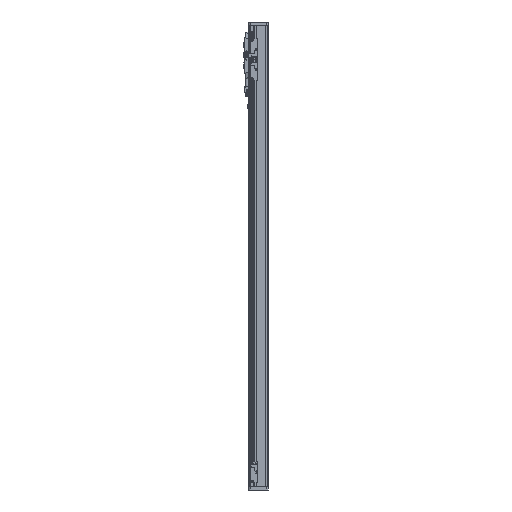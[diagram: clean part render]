
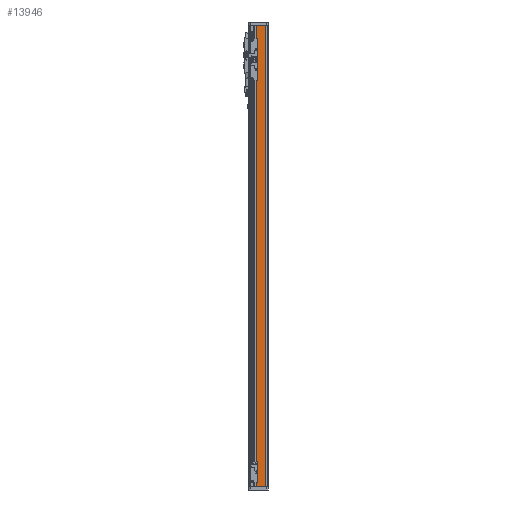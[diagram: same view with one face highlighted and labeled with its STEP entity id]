
A CAD part, left-side view. The second image highlights one B-rep face of the part: STEP entity #13946.
In plain terms, the highlighted planar face has unit normal (-1, 0, 0).
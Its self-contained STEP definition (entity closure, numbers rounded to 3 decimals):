
#152 = PLANE('',#153);
#153 = AXIS2_PLACEMENT_3D('',#154,#155,#156);
#154 = CARTESIAN_POINT('',(0.,0.,575.));
#155 = DIRECTION('',(-0.,0.,1.));
#156 = DIRECTION('',(1.,0.,0.));
#817 = PLANE('',#818);
#818 = AXIS2_PLACEMENT_3D('',#819,#820,#821);
#819 = CARTESIAN_POINT('',(0.,0.,-575.));
#820 = DIRECTION('',(-0.,0.,1.));
#821 = DIRECTION('',(1.,0.,0.));
#7469 = PLANE('',#7470);
#7470 = AXIS2_PLACEMENT_3D('',#7471,#7472,#7473);
#7471 = CARTESIAN_POINT('',(-27.5,-17.,570.));
#7472 = DIRECTION('',(-0.707,0.707,0.));
#7473 = DIRECTION('',(0.,0.,1.));
#7871 = VERTEX_POINT('',#7872);
#7872 = CARTESIAN_POINT('',(-27.1,4.6,575.));
#7886 = PLANE('',#7887);
#7887 = AXIS2_PLACEMENT_3D('',#7888,#7889,#7890);
#7888 = CARTESIAN_POINT('',(-27.1,4.6,570.));
#7889 = DIRECTION('',(-0.707,-0.707,0.));
#7890 = DIRECTION('',(0.,0.,1.));
#7898 = EDGE_CURVE('',#7871,#7899,#7901,.T.);
#7899 = VERTEX_POINT('',#7900);
#7900 = CARTESIAN_POINT('',(-27.1,-16.6,575.));
#7901 = SURFACE_CURVE('',#7902,(#7906,#7913),.PCURVE_S1.);
#7902 = LINE('',#7903,#7904);
#7903 = CARTESIAN_POINT('',(-27.1,8.,575.));
#7904 = VECTOR('',#7905,1.);
#7905 = DIRECTION('',(0.,-1.,0.));
#7906 = PCURVE('',#152,#7907);
#7907 = DEFINITIONAL_REPRESENTATION('',(#7908),#7912);
#7908 = LINE('',#7909,#7910);
#7909 = CARTESIAN_POINT('',(-27.1,8.));
#7910 = VECTOR('',#7911,1.);
#7911 = DIRECTION('',(0.,-1.));
#7912 = ( GEOMETRIC_REPRESENTATION_CONTEXT(2) 
PARAMETRIC_REPRESENTATION_CONTEXT() REPRESENTATION_CONTEXT('2D SPACE',''
  ) );
#7913 = PCURVE('',#7914,#7919);
#7914 = PLANE('',#7915);
#7915 = AXIS2_PLACEMENT_3D('',#7916,#7917,#7918);
#7916 = CARTESIAN_POINT('',(-27.1,8.,570.));
#7917 = DIRECTION('',(1.,0.,0.));
#7918 = DIRECTION('',(0.,1.,0.));
#7919 = DEFINITIONAL_REPRESENTATION('',(#7920),#7924);
#7920 = LINE('',#7921,#7922);
#7921 = CARTESIAN_POINT('',(0.,5.));
#7922 = VECTOR('',#7923,1.);
#7923 = DIRECTION('',(-1.,0.));
#7924 = ( GEOMETRIC_REPRESENTATION_CONTEXT(2) 
PARAMETRIC_REPRESENTATION_CONTEXT() REPRESENTATION_CONTEXT('2D SPACE',''
  ) );
#8938 = VERTEX_POINT('',#8939);
#8939 = CARTESIAN_POINT('',(-27.1,-16.6,-575.));
#8960 = EDGE_CURVE('',#8938,#8961,#8963,.T.);
#8961 = VERTEX_POINT('',#8962);
#8962 = CARTESIAN_POINT('',(-27.1,4.6,-575.));
#8963 = SURFACE_CURVE('',#8964,(#8968,#8975),.PCURVE_S1.);
#8964 = LINE('',#8965,#8966);
#8965 = CARTESIAN_POINT('',(-27.1,0.,-575.));
#8966 = VECTOR('',#8967,1.);
#8967 = DIRECTION('',(0.,1.,0.));
#8968 = PCURVE('',#817,#8969);
#8969 = DEFINITIONAL_REPRESENTATION('',(#8970),#8974);
#8970 = LINE('',#8971,#8972);
#8971 = CARTESIAN_POINT('',(-27.1,0.));
#8972 = VECTOR('',#8973,1.);
#8973 = DIRECTION('',(0.,1.));
#8974 = ( GEOMETRIC_REPRESENTATION_CONTEXT(2) 
PARAMETRIC_REPRESENTATION_CONTEXT() REPRESENTATION_CONTEXT('2D SPACE',''
  ) );
#8975 = PCURVE('',#7914,#8976);
#8976 = DEFINITIONAL_REPRESENTATION('',(#8977),#8981);
#8977 = LINE('',#8978,#8979);
#8978 = CARTESIAN_POINT('',(-8.,-1145.));
#8979 = VECTOR('',#8980,1.);
#8980 = DIRECTION('',(1.,0.));
#8981 = ( GEOMETRIC_REPRESENTATION_CONTEXT(2) 
PARAMETRIC_REPRESENTATION_CONTEXT() REPRESENTATION_CONTEXT('2D SPACE',''
  ) );
#13946 = ADVANCED_FACE('',(#13947),#7914,.F.);
#13947 = FACE_BOUND('',#13948,.T.);
#13948 = EDGE_LOOP('',(#13949,#13950,#13971,#13972));
#13949 = ORIENTED_EDGE('',*,*,#7898,.F.);
#13950 = ORIENTED_EDGE('',*,*,#13951,.T.);
#13951 = EDGE_CURVE('',#7871,#8961,#13952,.T.);
#13952 = SURFACE_CURVE('',#13953,(#13957,#13964),.PCURVE_S1.);
#13953 = LINE('',#13954,#13955);
#13954 = CARTESIAN_POINT('',(-27.1,4.6,-570.));
#13955 = VECTOR('',#13956,1.);
#13956 = DIRECTION('',(0.,0.,-1.));
#13957 = PCURVE('',#7914,#13958);
#13958 = DEFINITIONAL_REPRESENTATION('',(#13959),#13963);
#13959 = LINE('',#13960,#13961);
#13960 = CARTESIAN_POINT('',(-3.4,-1140.));
#13961 = VECTOR('',#13962,1.);
#13962 = DIRECTION('',(0.,-1.));
#13963 = ( GEOMETRIC_REPRESENTATION_CONTEXT(2) 
PARAMETRIC_REPRESENTATION_CONTEXT() REPRESENTATION_CONTEXT('2D SPACE',''
  ) );
#13964 = PCURVE('',#7886,#13965);
#13965 = DEFINITIONAL_REPRESENTATION('',(#13966),#13970);
#13966 = LINE('',#13967,#13968);
#13967 = CARTESIAN_POINT('',(-1140.,0.));
#13968 = VECTOR('',#13969,1.);
#13969 = DIRECTION('',(-1.,0.));
#13970 = ( GEOMETRIC_REPRESENTATION_CONTEXT(2) 
PARAMETRIC_REPRESENTATION_CONTEXT() REPRESENTATION_CONTEXT('2D SPACE',''
  ) );
#13971 = ORIENTED_EDGE('',*,*,#8960,.F.);
#13972 = ORIENTED_EDGE('',*,*,#13973,.T.);
#13973 = EDGE_CURVE('',#8938,#7899,#13974,.T.);
#13974 = SURFACE_CURVE('',#13975,(#13979,#13986),.PCURVE_S1.);
#13975 = LINE('',#13976,#13977);
#13976 = CARTESIAN_POINT('',(-27.1,-16.6,570.));
#13977 = VECTOR('',#13978,1.);
#13978 = DIRECTION('',(0.,0.,1.));
#13979 = PCURVE('',#7914,#13980);
#13980 = DEFINITIONAL_REPRESENTATION('',(#13981),#13985);
#13981 = LINE('',#13982,#13983);
#13982 = CARTESIAN_POINT('',(-24.6,0.));
#13983 = VECTOR('',#13984,1.);
#13984 = DIRECTION('',(0.,1.));
#13985 = ( GEOMETRIC_REPRESENTATION_CONTEXT(2) 
PARAMETRIC_REPRESENTATION_CONTEXT() REPRESENTATION_CONTEXT('2D SPACE',''
  ) );
#13986 = PCURVE('',#7469,#13987);
#13987 = DEFINITIONAL_REPRESENTATION('',(#13988),#13992);
#13988 = LINE('',#13989,#13990);
#13989 = CARTESIAN_POINT('',(0.,0.566));
#13990 = VECTOR('',#13991,1.);
#13991 = DIRECTION('',(1.,0.));
#13992 = ( GEOMETRIC_REPRESENTATION_CONTEXT(2) 
PARAMETRIC_REPRESENTATION_CONTEXT() REPRESENTATION_CONTEXT('2D SPACE',''
  ) );
